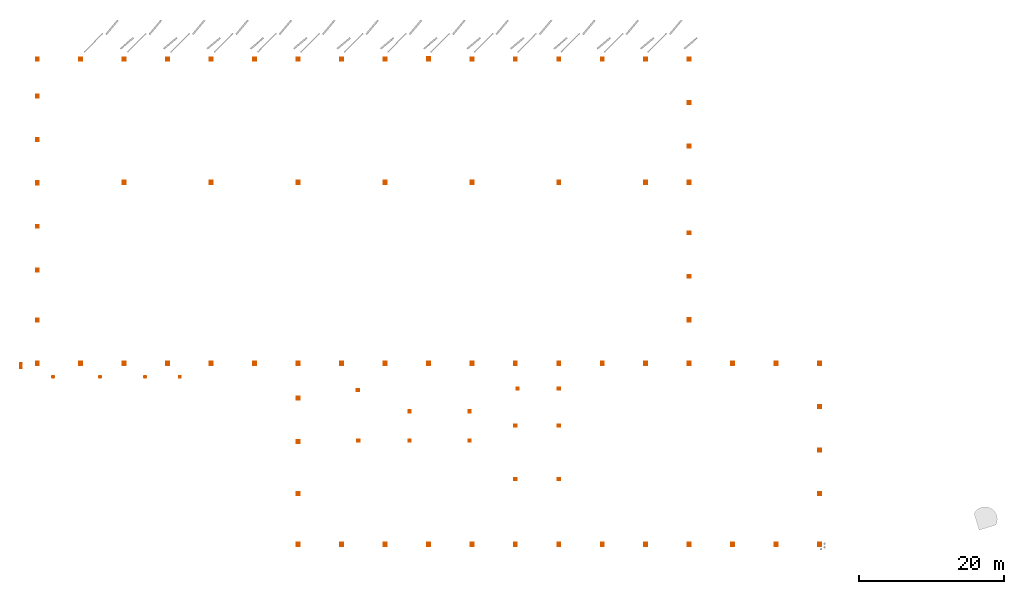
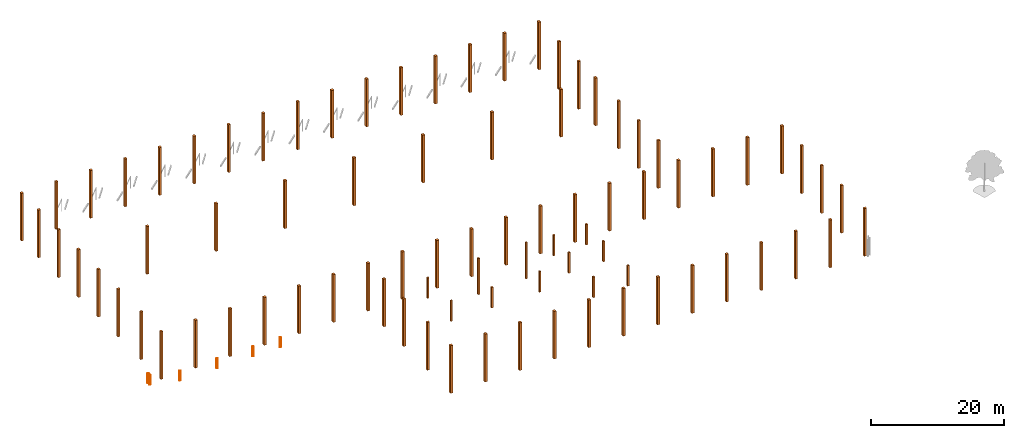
# One storey, part 1 of 3: 2 proxies.
"""IFC2X3 building model written with IfcOpenShell, lengths in millimetres."""

from ifc_helpers import new_model, entity, si_unit, converted_unit, derived_unit, direction, frame, frame_2d, origin, origin_2d_with_axis, place, context, subcontext, project, spatial, rectangle, circle, extrude, source, transform, mapped, material, type_object, type_shapes, element, save


model = new_model("IFC2X3")

# Units and contexts
model_context = context("Model", 3, precision=0.01, world=origin(), true_north=direction((4.05803320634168e-15, -1.0)))
body_context = subcontext(model_context, "Body", "Model", "MODEL_VIEW")
ifc_project = project(units=[si_unit("LENGTHUNIT", "METRE", prefix="MILLI"), si_unit("AREAUNIT", "SQUARE_METRE"), si_unit("VOLUMEUNIT", "CUBIC_METRE"), converted_unit("PLANEANGLEUNIT", "DEGREE", entity("IfcRatioMeasure", 0.0174532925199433), si_unit("PLANEANGLEUNIT", "RADIAN"), dimensions=[0, 0, 0, 0, 0, 0, 0]), si_unit("MASSUNIT", "GRAM", prefix="KILO"), derived_unit("MASSDENSITYUNIT", [(si_unit("MASSUNIT", "GRAM", prefix="KILO"), 1), (si_unit("LENGTHUNIT", "METRE"), -3)]), si_unit("TIMEUNIT", "SECOND"), si_unit("FREQUENCYUNIT", "HERTZ"), si_unit("THERMODYNAMICTEMPERATUREUNIT", "DEGREE_CELSIUS"), derived_unit("THERMALTRANSMITTANCEUNIT", [(si_unit("MASSUNIT", "GRAM", prefix="KILO"), 1), (si_unit("THERMODYNAMICTEMPERATUREUNIT", "KELVIN"), -1), (si_unit("TIMEUNIT", "SECOND"), -3)]), derived_unit("VOLUMETRICFLOWRATEUNIT", [(si_unit("LENGTHUNIT", "METRE"), 3), (si_unit("TIMEUNIT", "SECOND"), -1)]), si_unit("ELECTRICCURRENTUNIT", "AMPERE"), si_unit("ELECTRICVOLTAGEUNIT", "VOLT"), si_unit("POWERUNIT", "WATT"), si_unit("FORCEUNIT", "NEWTON", prefix="KILO"), si_unit("ILLUMINANCEUNIT", "LUX"), si_unit("LUMINOUSFLUXUNIT", "LUMEN"), si_unit("LUMINOUSINTENSITYUNIT", "CANDELA"), derived_unit("USERDEFINED", [(si_unit("MASSUNIT", "GRAM", prefix="KILO"), -1), (si_unit("LENGTHUNIT", "METRE"), -2), (si_unit("TIMEUNIT", "SECOND"), 3), (si_unit("LUMINOUSFLUXUNIT", "LUMEN"), 1)]), derived_unit("LINEARVELOCITYUNIT", [(si_unit("LENGTHUNIT", "METRE"), 1), (si_unit("TIMEUNIT", "SECOND"), -1)]), si_unit("PRESSUREUNIT", "PASCAL"), derived_unit("USERDEFINED", [(si_unit("LENGTHUNIT", "METRE"), -2), (si_unit("MASSUNIT", "GRAM", prefix="KILO"), 1), (si_unit("TIMEUNIT", "SECOND"), -2)])], contexts=[model_context])

# Site, building, storey
site_placement = place(None, frame((927466.849349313, 583801.882853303, 0.0), z_axis=(0.0, 0.0, 1.0), x_axis=(-1.0, 0.0, 0.0)))
site = spatial("IfcSite", under=ifc_project, at=site_placement, Name="Surface", CompositionType="ELEMENT")
building_placement = place(site_placement, origin())
building = spatial("IfcBuilding", under=site, at=building_placement, CompositionType="ELEMENT")
storey_placement = place(building_placement, origin())
storey = spatial("IfcBuildingStorey", under=building, at=storey_placement, Name="0. Base level", CompositionType="ELEMENT", Elevation=0.0)

# Proxies
ifc_material_1 = material(Name="Column")
building_element_proxy_type_1 = type_object("IfcBuildingElementProxyType", Name="Generic Models 7", PredefinedType="NOTDEFINED", material=ifc_material_1)
shared_shape_1 = source(origin(), body_context, "Body", "SweptSolid", [
    extrude(rectangle(XDim=300.000000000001, YDim=300.000000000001, at=origin_2d_with_axis()), frame((-89350.59177989, 15357.4703266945, 44170.0), z_axis=(0.0, 0.0, 1.0), x_axis=(-1.0, 0.0, 0.0)), (0.0, 0.0, 1.0), 3800.00000000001),
    extrude(rectangle(XDim=300.000000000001, YDim=300.000000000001, at=origin_2d_with_axis()), frame((-96497.9372768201, 18319.2777512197, 44170.0), z_axis=(0.0, 0.0, 1.0), x_axis=(-1.0, 0.0, 0.0)), (0.0, 0.0, 1.0), 6657.10660368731),
    extrude(rectangle(XDim=300.000000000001, YDim=300.000000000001, at=origin_2d_with_axis()), frame((-104797.93727682, 18319.2777512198, 44170.0), z_axis=(0.0, 0.0, 1.0), x_axis=(-1.0, 0.0, 0.0)), (0.0, 0.0, 1.0), 6657.10660368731),
    extrude(rectangle(XDim=300.000000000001, YDim=300.000000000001, at=origin_2d_with_axis()), frame((-111098.690247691, 27658.4151802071, 44170.0), z_axis=(0.0, 0.0, 1.0), x_axis=(-1.0, 0.0, 0.0)), (0.0, 0.0, 1.0), 3800.0),
    extrude(rectangle(XDim=300.000000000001, YDim=300.000000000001, at=origin_2d_with_axis()), frame((-117100.59177989, 27658.4151802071, 44170.0), z_axis=(0.0, 0.0, 1.0), x_axis=(-1.0, 0.0, 0.0)), (0.0, 0.0, 1.0), 3800.0),
    extrude(rectangle(XDim=300.000000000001, YDim=300.000000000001, at=origin_2d_with_axis()), frame((-117100.59177989, 20257.4925063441, 44170.0), z_axis=(0.0, 0.0, 1.0), x_axis=(-1.0, 0.0, 0.0)), (0.0, 0.0, 1.0), 3800.0),
    extrude(rectangle(XDim=300.000000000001, YDim=300.000000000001, at=origin_2d_with_axis()), frame((-117100.59177989, 15157.4703267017, 44170.0), z_axis=(0.0, 0.0, 1.0), x_axis=(-1.0, 0.0, 0.0)), (0.0, 0.0, 1.0), 3800.0),
    extrude(rectangle(XDim=300.000000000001, YDim=300.000000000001, at=origin_2d_with_axis()), frame((-111098.690247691, 20257.4925063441, 44170.0), z_axis=(0.0, 0.0, 1.0), x_axis=(-1.0, 0.0, 0.0)), (0.0, 0.0, 1.0), 3800.0),
    extrude(rectangle(XDim=300.000000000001, YDim=300.000000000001, at=origin_2d_with_axis()), frame((-111398.690247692, 15157.4703267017, 44170.0), z_axis=(0.0, 0.0, 1.0), x_axis=(-1.0, 0.0, 0.0)), (0.0, 0.0, 1.0), 3800.0),
    extrude(rectangle(XDim=300.000000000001, YDim=300.000000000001, at=origin_2d_with_axis()), frame((-89427.7355895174, 22357.4703266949, 44170.0), z_axis=(0.0, 0.0, 1.0), x_axis=(-1.0, 0.0, 0.0)), (0.0, 0.0, 1.0), 3800.00000000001),
    extrude(rectangle(XDim=300.000000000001, YDim=300.000000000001, at=origin_2d_with_axis()), frame((-104797.93727682, 22357.470326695, 44170.0), z_axis=(0.0, 0.0, 1.0), x_axis=(-1.0, 0.0, 0.0)), (0.0, 0.0, 1.0), 3800.00000000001),
    extrude(rectangle(XDim=300.000000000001, YDim=300.000000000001, at=origin_2d_with_axis()), frame((-96497.9372768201, 22357.470326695, 44170.0), z_axis=(0.0, 0.0, 1.0), x_axis=(-1.0, 0.0, 0.0)), (0.0, 0.0, 1.0), 3800.00000000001),
    extrude(rectangle(XDim=400.000000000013, YDim=460.000000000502, at=origin_2d_with_axis()), frame((-45100.5917798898, 11678.2777512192, 42595.7610843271), z_axis=(0.0, 0.0, 1.0), x_axis=(-1.0, 0.0, 0.0)), (0.0, 0.0, 1.0), 8775.91843212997),
    extrude(rectangle(XDim=399.999999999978, YDim=459.999999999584, at=origin_2d_with_axis()), frame((-153100.59177989, 11678.27775122, 42595.7610843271), z_axis=(0.0, 0.0, 1.0), x_axis=(-1.0, 0.0, 0.0)), (0.0, 0.0, 1.0), 8775.91843212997),
    extrude(rectangle(XDim=400.000000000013, YDim=434.871899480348, at=origin_2d_with_axis()), frame((-105098.690247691, 36673.4058517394, 42595.7610843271), z_axis=(0.0, 0.0, 1.0), x_axis=(-1.0, 0.0, 0.0)), (0.0, 0.0, 1.0), 8775.91843212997),
    extrude(rectangle(XDim=399.999999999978, YDim=434.871899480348, at=origin_2d_with_axis()), frame((-129098.690247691, 36673.4058517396, 42595.7610843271), z_axis=(0.0, 0.0, 1.0), x_axis=(-1.0, 0.0, 0.0)), (0.0, 0.0, 1.0), 8775.91843212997),
    extrude(rectangle(XDim=400.000000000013, YDim=459.99999999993, at=origin_2d_with_axis()), frame((-81098.6902476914, 36660.8418014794, 42595.7610843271), z_axis=(0.0, 0.0, 1.0), x_axis=(-1.0, 0.0, 0.0)), (0.0, 0.0, 1.0), 8775.91843212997),
    extrude(rectangle(XDim=400.000000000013, YDim=460.000000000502, at=origin_2d_with_axis()), frame((-69100.5917798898, 11678.2777512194, 42595.7610843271), z_axis=(0.0, 0.0, 1.0), x_axis=(-1.0, 0.0, 0.0)), (0.0, 0.0, 1.0), 8775.91843212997),
    extrude(rectangle(XDim=400.000000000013, YDim=480.000000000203, at=origin_2d_with_axis()), frame((-93100.5917798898, 11688.2777512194, 42595.7610843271), z_axis=(0.0, 0.0, 1.0), x_axis=(-1.0, 0.0, 0.0)), (0.0, 0.0, 1.0), 8775.91843212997),
    extrude(rectangle(XDim=400.000000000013, YDim=459.99999999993, at=frame_2d((0.0, -8.66862137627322e-12), x_axis=(1.0, 0.0))), frame((-87098.6902476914, 36660.8418014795, 42595.7610843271), z_axis=(0.0, 0.0, 1.0), x_axis=(-1.0, 0.0, 0.0)), (0.0, 0.0, 1.0), 8775.91843212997),
    extrude(rectangle(XDim=400.000000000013, YDim=459.999999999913, at=origin_2d_with_axis()), frame((-93098.6902476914, 36660.8418014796, 42595.7610843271), z_axis=(0.0, 0.0, 1.0), x_axis=(-1.0, 0.0, 0.0)), (0.0, 0.0, 1.0), 8775.91843212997),
    extrude(rectangle(XDim=400.000000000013, YDim=459.999999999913, at=origin_2d_with_axis()), frame((-99098.6902476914, 36660.8418014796, 42595.7610843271), z_axis=(0.0, 0.0, 1.0), x_axis=(-1.0, 0.0, 0.0)), (0.0, 0.0, 1.0), 8775.91843212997),
    extrude(rectangle(XDim=399.999999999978, YDim=434.871899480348, at=origin_2d_with_axis()), frame((-111098.690247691, 36673.4058517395, 42595.7610843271), z_axis=(0.0, 0.0, 1.0), x_axis=(-1.0, 0.0, 0.0)), (0.0, 0.0, 1.0), 8775.91843212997),
    extrude(rectangle(XDim=400.000000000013, YDim=434.871899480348, at=origin_2d_with_axis()), frame((-117098.690247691, 36673.4058517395, 42595.7610843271), z_axis=(0.0, 0.0, 1.0), x_axis=(-1.0, 0.0, 0.0)), (0.0, 0.0, 1.0), 8775.91843212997),
    extrude(rectangle(XDim=400.000000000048, YDim=434.871899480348, at=origin_2d_with_axis()), frame((-123098.690247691, 36673.4058517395, 42595.7610843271), z_axis=(0.0, 0.0, 1.0), x_axis=(-1.0, 0.0, 0.0)), (0.0, 0.0, 1.0), 8775.91843212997),
    extrude(rectangle(XDim=400.000000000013, YDim=434.871899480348, at=origin_2d_with_axis()), frame((-135098.690247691, 36673.4058517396, 42595.7610843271), z_axis=(0.0, 0.0, 1.0), x_axis=(-1.0, 0.0, 0.0)), (0.0, 0.0, 1.0), 8775.91843212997),
    extrude(rectangle(XDim=400.000000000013, YDim=400.000000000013, at=origin_2d_with_axis()), frame((-81098.6902476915, 22494.7192501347, 42595.7610843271), z_axis=(0.0, 0.0, 1.0), x_axis=(-1.0, 0.0, 0.0)), (0.0, 0.0, 1.0), 8775.91843212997),
    extrude(rectangle(XDim=400.000000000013, YDim=400.000000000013, at=origin_2d_with_axis()), frame((-81098.6902476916, 16494.7192501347, 42595.7610843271), z_axis=(0.0, 0.0, 1.0), x_axis=(-1.0, 0.0, 0.0)), (0.0, 0.0, 1.0), 8775.91843212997),
    extrude(rectangle(XDim=400.000000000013, YDim=399.999999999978, at=origin_2d_with_axis()), frame((-45100.5917798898, 5688.27775121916, 42595.7610843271), z_axis=(0.0, 0.0, 1.0), x_axis=(-1.0, 0.0, 0.0)), (0.0, 0.0, 1.0), 8775.91843212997),
    extrude(rectangle(XDim=400.000000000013, YDim=400.000000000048, at=origin_2d_with_axis()), frame((-45100.5917798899, -1205.28074986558, 42595.7610843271), z_axis=(0.0, 0.0, 1.0), x_axis=(-1.0, 0.0, 0.0)), (0.0, 0.0, 1.0), 8775.91843212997),
    extrude(rectangle(XDim=400.000000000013, YDim=480.000000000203, at=frame_2d((1.73372427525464e-11, 0.0), x_axis=(1.0, 0.0))), frame((-105100.59177989, 11668.2777512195, 42595.7610843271), z_axis=(0.0, 0.0, 1.0), x_axis=(-1.0, 0.0, 0.0)), (0.0, 0.0, 1.0), 8775.91843212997),
    extrude(rectangle(XDim=399.999999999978, YDim=459.99999999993, at=frame_2d((0.0, -4.33431068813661e-12), x_axis=(1.0, 0.0))), frame((-111100.59177989, 11678.2777512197, 42595.7610843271), z_axis=(0.0, 0.0, 1.0), x_axis=(-1.0, 0.0, 0.0)), (0.0, 0.0, 1.0), 8775.91843212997),
    extrude(rectangle(XDim=400.000000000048, YDim=480.000000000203, at=origin_2d_with_axis()), frame((-99102.4933120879, 11688.2777512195, 42595.7610843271), z_axis=(0.0, 0.0, 1.0), x_axis=(-1.0, 0.0, 0.0)), (0.0, 0.0, 1.0), 8775.91843212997),
    extrude(rectangle(XDim=400.000000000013, YDim=460.000000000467, at=origin_2d_with_axis()), frame((-75100.5917798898, 11678.2777512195, 42595.7610843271), z_axis=(0.0, 0.0, 1.0), x_axis=(-1.0, 0.0, 0.0)), (0.0, 0.0, 1.0), 8775.91843212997),
    extrude(rectangle(XDim=400.000000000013, YDim=510.000000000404, at=origin_2d_with_axis()), frame((-81100.5917798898, 11703.2777512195, 42595.7610843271), z_axis=(0.0, 0.0, 1.0), x_axis=(-1.0, 0.0, 0.0)), (0.0, 0.0, 1.0), 8775.91843212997),
    extrude(rectangle(XDim=400.000000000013, YDim=480.000000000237, at=origin_2d_with_axis()), frame((-87100.5917798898, 11688.2777512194, 42595.7610843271), z_axis=(0.0, 0.0, 1.0), x_axis=(-1.0, 0.0, 0.0)), (0.0, 0.0, 1.0), 8775.91843212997),
    extrude(rectangle(XDim=400.000000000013, YDim=460.000000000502, at=origin_2d_with_axis()), frame((-51100.5917798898, 11678.2777512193, 42595.7610843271), z_axis=(0.0, 0.0, 1.0), x_axis=(-1.0, 0.0, 0.0)), (0.0, 0.0, 1.0), 8775.91843212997),
    extrude(rectangle(XDim=400.000000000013, YDim=460.000000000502, at=origin_2d_with_axis()), frame((-57100.5917798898, 11678.2777512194, 42595.7610843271), z_axis=(0.0, 0.0, 1.0), x_axis=(-1.0, 0.0, 0.0)), (0.0, 0.0, 1.0), 8775.91843212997),
    extrude(rectangle(XDim=400.000000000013, YDim=460.000000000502, at=origin_2d_with_axis()), frame((-63100.5917798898, 11678.2777512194, 42595.7610843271), z_axis=(0.0, 0.0, 1.0), x_axis=(-1.0, 0.0, 0.0)), (0.0, 0.0, 1.0), 8775.91843212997),
    extrude(rectangle(XDim=400.000000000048, YDim=480.000000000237, at=origin_2d_with_axis()), frame((-123100.59177989, 11688.2777512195, 42595.7610843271), z_axis=(0.0, 0.0, 1.0), x_axis=(-1.0, 0.0, 0.0)), (0.0, 0.0, 1.0), 8775.91843212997),
    extrude(rectangle(XDim=399.999999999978, YDim=459.999999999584, at=origin_2d_with_axis()), frame((-135100.59177989, 11678.27775122, 42595.7610843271), z_axis=(0.0, 0.0, 1.0), x_axis=(-1.0, 0.0, 0.0)), (0.0, 0.0, 1.0), 8775.91843212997),
    extrude(rectangle(XDim=400.000000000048, YDim=480.000000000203, at=origin_2d_with_axis()), frame((-129102.493312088, 11688.2777512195, 42595.7610843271), z_axis=(0.0, 0.0, 1.0), x_axis=(-1.0, 0.0, 0.0)), (0.0, 0.0, 1.0), 8775.91843212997),
    extrude(rectangle(XDim=399.999999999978, YDim=480.000000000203, at=origin_2d_with_axis()), frame((-117100.59177989, 11688.2777512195, 42595.7610843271), z_axis=(0.0, 0.0, 1.0), x_axis=(-1.0, 0.0, 0.0)), (0.0, 0.0, 1.0), 8775.91843212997),
    extrude(rectangle(XDim=420.000000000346, YDim=400.000000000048, at=frame_2d((3.24007487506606e-12, 0.0), x_axis=(1.0, 0.0))), frame((-135100.59177989, 5678.27775121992, 42595.7610843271), z_axis=(0.0, 0.0, 1.0), x_axis=(0.0, -1.0, 0.0)), (0.0, 0.0, 1.0), 8775.91843212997),
    extrude(rectangle(XDim=400.000000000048, YDim=399.999999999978, at=frame_2d((-1.08002495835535e-12, 0.0), x_axis=(1.0, 0.0))), frame((-135100.59177989, -325.280749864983, 42595.7610843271), z_axis=(0.0, 0.0, 1.0), x_axis=(0.0, -1.0, 0.0)), (0.0, 0.0, 1.0), 8775.91843212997),
    extrude(rectangle(XDim=460.000000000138, YDim=400.000000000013, at=origin_2d_with_axis()), frame((-69100.5917798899, -30321.7403210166, 42595.7610843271), z_axis=(0.0, 0.0, 1.0), x_axis=(0.0, 1.0, 0.0)), (0.0, 0.0, 1.0), 8775.91843212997),
    extrude(rectangle(XDim=459.999999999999, YDim=400.000000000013, at=origin_2d_with_axis()), frame((-93100.5917798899, -30321.7403210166, 42595.7610843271), z_axis=(0.0, 0.0, 1.0), x_axis=(0.0, 1.0, 0.0)), (0.0, 0.0, 1.0), 8775.91843212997),
    extrude(rectangle(XDim=429.999999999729, YDim=400.000000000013, at=origin_2d_with_axis()), frame((-45100.59177989, -30306.7403210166, 42595.7610843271), z_axis=(0.0, 0.0, 1.0), x_axis=(0.0, 1.0, 0.0)), (0.0, 0.0, 1.0), 8775.91843212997),
    extrude(rectangle(XDim=460.000000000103, YDim=400.000000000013, at=origin_2d_with_axis()), frame((-105100.59177989, -30321.7403210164, 42595.7610843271), z_axis=(0.0, 0.0, 1.0), x_axis=(0.0, 1.0, 0.0)), (0.0, 0.0, 1.0), 8775.91843212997),
    extrude(rectangle(XDim=460.000000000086, YDim=399.999999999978, at=origin_2d_with_axis()), frame((-111100.59177989, -30321.7403210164, 42595.7610843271), z_axis=(0.0, 0.0, 1.0), x_axis=(0.0, 1.0, 0.0)), (0.0, 0.0, 1.0), 8775.91843212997),
    extrude(rectangle(XDim=460.000000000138, YDim=400.000000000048, at=origin_2d_with_axis()), frame((-99102.493312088, -30341.7403210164, 42595.7610843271), z_axis=(0.0, 0.0, 1.0), x_axis=(0.0, 1.0, 0.0)), (0.0, 0.0, 1.0), 8775.91843212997),
    extrude(rectangle(XDim=459.999999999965, YDim=400.000000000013, at=origin_2d_with_axis()), frame((-75100.59177989, -30321.7403210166, 42595.7610843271), z_axis=(0.0, 0.0, 1.0), x_axis=(0.0, 1.0, 0.0)), (0.0, 0.0, 1.0), 8775.91843212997),
    extrude(rectangle(XDim=459.999999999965, YDim=400.000000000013, at=origin_2d_with_axis()), frame((-81100.59177989, -30321.7403210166, 42595.7610843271), z_axis=(0.0, 0.0, 1.0), x_axis=(0.0, 1.0, 0.0)), (0.0, 0.0, 1.0), 8775.91843212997),
    extrude(rectangle(XDim=459.999999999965, YDim=400.000000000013, at=origin_2d_with_axis()), frame((-87100.59177989, -30321.7403210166, 42595.7610843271), z_axis=(0.0, 0.0, 1.0), x_axis=(0.0, 1.0, 0.0)), (0.0, 0.0, 1.0), 8775.91843212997),
    extrude(rectangle(XDim=429.999999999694, YDim=400.000000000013, at=origin_2d_with_axis()), frame((-51100.5917798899, -30306.7403210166, 42595.7610843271), z_axis=(0.0, 0.0, 1.0), x_axis=(0.0, 1.0, 0.0)), (0.0, 0.0, 1.0), 8775.91843212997),
    extrude(rectangle(XDim=460.000000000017, YDim=400.000000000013, at=origin_2d_with_axis()), frame((-57100.59177989, -30321.7403210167, 42595.7610843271), z_axis=(0.0, 0.0, 1.0), x_axis=(0.0, 1.0, 0.0)), (0.0, 0.0, 1.0), 8775.91843212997),
    extrude(rectangle(XDim=459.999999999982, YDim=400.000000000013, at=origin_2d_with_axis()), frame((-63100.5917798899, -30321.7403210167, 42595.7610843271), z_axis=(0.0, 0.0, 1.0), x_axis=(0.0, 1.0, 0.0)), (0.0, 0.0, 1.0), 8775.91843212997),
    extrude(rectangle(XDim=459.999999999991, YDim=400.000000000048, at=frame_2d((8.66862137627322e-12, 0.0), x_axis=(1.0, 0.0))), frame((-123100.59177989, -30321.7403210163, 42595.7610843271), z_axis=(0.0, 0.0, 1.0), x_axis=(0.0, 1.0, 0.0)), (0.0, 0.0, 1.0), 8775.91843212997),
    extrude(rectangle(XDim=459.999999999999, YDim=399.999999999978, at=origin_2d_with_axis()), frame((-135100.59177989, -30321.7403210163, 42595.7610843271), z_axis=(0.0, 0.0, 1.0), x_axis=(0.0, 1.0, 0.0)), (0.0, 0.0, 1.0), 8775.91843212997),
    extrude(rectangle(XDim=459.999999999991, YDim=400.000000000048, at=origin_2d_with_axis()), frame((-129102.493312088, -30321.7403210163, 42595.7610843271), z_axis=(0.0, 0.0, 1.0), x_axis=(0.0, 1.0, 0.0)), (0.0, 0.0, 1.0), 8775.91843212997),
    extrude(rectangle(XDim=459.999999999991, YDim=400.000000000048, at=origin_2d_with_axis()), frame((-117100.59177989, -30321.7403210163, 42595.7610843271), z_axis=(0.0, 0.0, 1.0), x_axis=(0.0, 1.0, 0.0)), (0.0, 0.0, 1.0), 8775.91843212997),
    extrude(rectangle(XDim=399.999999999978, YDim=400.000000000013, at=origin_2d_with_axis()), frame((-81098.6902476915, 29673.8480121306, 42595.7610843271), z_axis=(0.0, 0.0, 1.0), x_axis=(-1.0, 0.0, 0.0)), (0.0, 0.0, 1.0), 8775.91843212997),
    extrude(rectangle(XDim=400.000000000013, YDim=400.000000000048, at=origin_2d_with_axis()), frame((-45100.5917798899, -7223.33094565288, 42595.7610843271), z_axis=(0.0, 0.0, 1.0), x_axis=(-1.0, 0.0, 0.0)), (0.0, 0.0, 1.0), 8775.91843212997),
    extrude(rectangle(XDim=400.000000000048, YDim=399.999999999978, at=frame_2d((-2.17426077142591e-12, 0.0), x_axis=(1.0, 0.0))), frame((-135100.59177989, -6325.28074986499, 42595.7610843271), z_axis=(0.0, 0.0, 1.0), x_axis=(0.0, -1.0, 0.0)), (0.0, 0.0, 1.0), 8775.91843212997),
    extrude(rectangle(XDim=400.000000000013, YDim=459.999999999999, at=origin_2d_with_axis()), frame((-45100.59177989, -13219.7905168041, 42595.7610843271), z_axis=(0.0, 0.0, 1.0), x_axis=(-1.0, 0.0, 0.0)), (0.0, 0.0, 1.0), 8775.91843212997),
    extrude(rectangle(XDim=459.999999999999, YDim=399.999999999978, at=frame_2d((2.1600499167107e-12, 0.0), x_axis=(1.0, 0.0))), frame((-135100.59177989, -13321.7403210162, 42595.7610843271), z_axis=(0.0, 0.0, 1.0), x_axis=(0.0, -1.0, 0.0)), (0.0, 0.0, 1.0), 8775.91843212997),
    extrude(rectangle(XDim=400.000000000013, YDim=400.000000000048, at=origin_2d_with_axis()), frame((-45100.59177989, -19216.2139434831, 42595.7610843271), z_axis=(0.0, 0.0, 1.0), x_axis=(-1.0, 0.0, 0.0)), (0.0, 0.0, 1.0), 8775.91843212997),
    extrude(rectangle(XDim=400.000000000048, YDim=399.999999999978, at=frame_2d((-2.17426077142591e-12, 0.0), x_axis=(1.0, 0.0))), frame((-135100.59177989, -18318.1637476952, 42595.7610843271), z_axis=(0.0, 0.0, 1.0), x_axis=(0.0, -1.0, 0.0)), (0.0, 0.0, 1.0), 8775.91843212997),
    extrude(rectangle(XDim=400.000000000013, YDim=400.000000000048, at=origin_2d_with_axis()), frame((-45100.5917798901, -25212.6554423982, 42595.7610843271), z_axis=(0.0, 0.0, 1.0), x_axis=(-1.0, 0.0, 0.0)), (0.0, 0.0, 1.0), 8775.91843212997),
    extrude(rectangle(XDim=400.000000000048, YDim=399.999999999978, at=origin_2d_with_axis()), frame((-135100.59177989, -24314.6052466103, 42595.7610843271), z_axis=(0.0, 0.0, 1.0), x_axis=(0.0, -1.0, 0.0)), (0.0, 0.0, 1.0), 8775.91843212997),
    extrude(rectangle(XDim=460.000000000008, YDim=399.999999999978, at=origin_2d_with_axis()), frame((-129100.59177989, -13321.7403210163, 42595.7610843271), z_axis=(0.0, 0.0, 1.0), x_axis=(0.0, -1.0, 0.0)), (0.0, 0.0, 1.0), 8775.91843212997),
    extrude(rectangle(XDim=459.999999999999, YDim=399.999999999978, at=frame_2d((-2.1600499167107e-12, 0.0), x_axis=(1.0, 0.0))), frame((-117100.59177989, -13321.7403210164, 42595.7610843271), z_axis=(0.0, 0.0, 1.0), x_axis=(0.0, -1.0, 0.0)), (0.0, 0.0, 1.0), 8775.91843212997),
    extrude(rectangle(XDim=459.999999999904, YDim=399.999999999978, at=origin_2d_with_axis()), frame((-105100.59177989, -13321.7403210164, 42595.7610843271), z_axis=(0.0, 0.0, 1.0), x_axis=(0.0, -1.0, 0.0)), (0.0, 0.0, 1.0), 8775.91843212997),
    extrude(rectangle(XDim=459.999999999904, YDim=399.999999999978, at=origin_2d_with_axis()), frame((-93100.5917798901, -13321.7403210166, 42595.7610843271), z_axis=(0.0, 0.0, 1.0), x_axis=(0.0, -1.0, 0.0)), (0.0, 0.0, 1.0), 8775.91843212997),
    extrude(rectangle(XDim=459.999999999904, YDim=399.999999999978, at=origin_2d_with_axis()), frame((-81100.5917798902, -13321.7403210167, 42595.7610843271), z_axis=(0.0, 0.0, 1.0), x_axis=(0.0, -1.0, 0.0)), (0.0, 0.0, 1.0), 8775.91843212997),
    extrude(rectangle(XDim=459.999999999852, YDim=399.999999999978, at=frame_2d((0.0, -4.33431068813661e-12), x_axis=(1.0, 0.0))), frame((-69100.5917798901, -13321.7403210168, 42595.7610843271), z_axis=(0.0, 0.0, 1.0), x_axis=(0.0, -1.0, 0.0)), (0.0, 0.0, 1.0), 8775.91843212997),
    extrude(rectangle(XDim=459.999999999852, YDim=399.999999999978, at=frame_2d((0.0, -4.33431068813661e-12), x_axis=(1.0, 0.0))), frame((-57100.5917798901, -13321.7403210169, 42595.7610843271), z_axis=(0.0, 0.0, 1.0), x_axis=(0.0, -1.0, 0.0)), (0.0, 0.0, 1.0), 8775.91843212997),
    extrude(rectangle(XDim=400.000000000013, YDim=434.871899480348, at=origin_2d_with_axis()), frame((-153098.690247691, 36673.4058517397, 42595.7610843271), z_axis=(0.0, 0.0, 1.0), x_axis=(-1.0, 0.0, 0.0)), (0.0, 0.0, 1.0), 8775.91843212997),
    extrude(rectangle(XDim=400.000000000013, YDim=400.000000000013, at=origin_2d_with_axis()), frame((-153098.690247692, 17678.7199116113, 42595.7610843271), z_axis=(0.0, 0.0, 1.0), x_axis=(-1.0, 0.0, 0.0)), (0.0, 0.0, 1.0), 8775.91843212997),
    extrude(rectangle(XDim=399.999999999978, YDim=400.000000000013, at=origin_2d_with_axis()), frame((-153098.690247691, 29673.8480121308, 42595.7610843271), z_axis=(0.0, 0.0, 1.0), x_axis=(-1.0, 0.0, 0.0)), (0.0, 0.0, 1.0), 8775.91843212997),
    extrude(rectangle(XDim=400.000000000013, YDim=400.000000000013, at=origin_2d_with_axis()), frame((-153098.690247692, 23678.7199116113, 42595.7610843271), z_axis=(0.0, 0.0, 1.0), x_axis=(-1.0, 0.0, 0.0)), (0.0, 0.0, 1.0), 8775.91843212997),
    extrude(rectangle(XDim=400.000000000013, YDim=434.871899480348, at=origin_2d_with_axis()), frame((-141098.690247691, 36673.4058517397, 42595.7610843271), z_axis=(0.0, 0.0, 1.0), x_axis=(-1.0, 0.0, 0.0)), (0.0, 0.0, 1.0), 8775.91843212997),
    extrude(rectangle(XDim=399.999999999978, YDim=459.999999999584, at=origin_2d_with_axis()), frame((-141100.59177989, 11678.27775122, 42595.7610843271), z_axis=(0.0, 0.0, 1.0), x_axis=(-1.0, 0.0, 0.0)), (0.0, 0.0, 1.0), 8775.91843212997),
    extrude(rectangle(XDim=400.000000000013, YDim=434.871899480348, at=origin_2d_with_axis()), frame((-147098.690247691, 36673.4058517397, 42595.7610843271), z_axis=(0.0, 0.0, 1.0), x_axis=(-1.0, 0.0, 0.0)), (0.0, 0.0, 1.0), 8775.91843212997),
    extrude(rectangle(XDim=399.999999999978, YDim=459.999999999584, at=origin_2d_with_axis()), frame((-147100.59177989, 11678.27775122, 42595.7610843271), z_axis=(0.0, 0.0, 1.0), x_axis=(-1.0, 0.0, 0.0)), (0.0, 0.0, 1.0), 8775.91843212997),
])
type_shapes(building_element_proxy_type_1, [shared_shape_1])
proxy_1_placement = place(storey_placement, origin())
element("IfcBuildingElementProxy", 1, at=proxy_1_placement, inside=storey, type_object=building_element_proxy_type_1, material=ifc_material_1, Name="Generic Models 21:Generic Models 7", ObjectType="Generic Models 7", context=body_context, shape_type="MappedRepresentation", body=[
    mapped(shared_shape_1, transform((0.0, 0.0, 0.0), scale=1.0)),
])
ifc_material_2 = material(Name="bollards")
building_element_proxy_type_2 = type_object("IfcBuildingElementProxyType", Name="Generic Models 44", PredefinedType="NOTDEFINED", material=ifc_material_2)
shared_shape_2 = source(origin(), body_context, "Body", "SweptSolid", [
    extrude(circle(Radius=120.000000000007, at=origin_2d_with_axis()), frame((-64773.4698957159, 13542.0069520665, 42695.9057084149), z_axis=(0.0, 0.0, 1.0), x_axis=(0.0, -1.0, 0.0)), (0.0, 0.0, 1.0), 1647.73079014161),
    extrude(circle(Radius=120.000000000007, at=origin_2d_with_axis()), frame((-42808.6557962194, 11742.0697329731, 42695.9057084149), z_axis=(0.0, 0.0, 1.0), x_axis=(0.0, -1.0, 0.0)), (0.0, 0.0, 1.0), 1647.73079014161),
    extrude(circle(Radius=120.000000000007, at=origin_2d_with_axis()), frame((-42812.1138162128, 12238.6117129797, 42695.9057084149), z_axis=(0.0, 0.0, 1.0), x_axis=(0.0, -1.0, 0.0)), (0.0, 0.0, 1.0), 1647.73079014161),
    extrude(circle(Radius=120.000000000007, at=origin_2d_with_axis()), frame((-59973.4698957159, 13542.0069520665, 42695.9057084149), z_axis=(0.0, 0.0, 1.0), x_axis=(0.0, -1.0, 0.0)), (0.0, 0.0, 1.0), 1647.73079014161),
    extrude(circle(Radius=120.000000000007, at=origin_2d_with_axis()), frame((-53773.4698957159, 13542.0069520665, 42695.9057084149), z_axis=(0.0, 0.0, 1.0), x_axis=(0.0, -1.0, 0.0)), (0.0, 0.0, 1.0), 1647.73079014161),
    extrude(circle(Radius=120.000000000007, at=origin_2d_with_axis()), frame((-47273.4698957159, 13542.0069520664, 42695.9057084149), z_axis=(0.0, 0.0, 1.0), x_axis=(0.0, -1.0, 0.0)), (0.0, 0.0, 1.0), 1647.73079014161),
])
type_shapes(building_element_proxy_type_2, [shared_shape_2])
proxy_2_placement = place(storey_placement, origin())
element("IfcBuildingElementProxy", 2, at=proxy_2_placement, inside=storey, type_object=building_element_proxy_type_2, material=ifc_material_2, Name="Generic Models 59:Generic Models 44", ObjectType="Generic Models 44", context=body_context, shape_type="MappedRepresentation", body=[
    mapped(shared_shape_2, transform((0.0, 0.0, 0.0), scale=1.0)),
])

save(model, "model.ifc")
